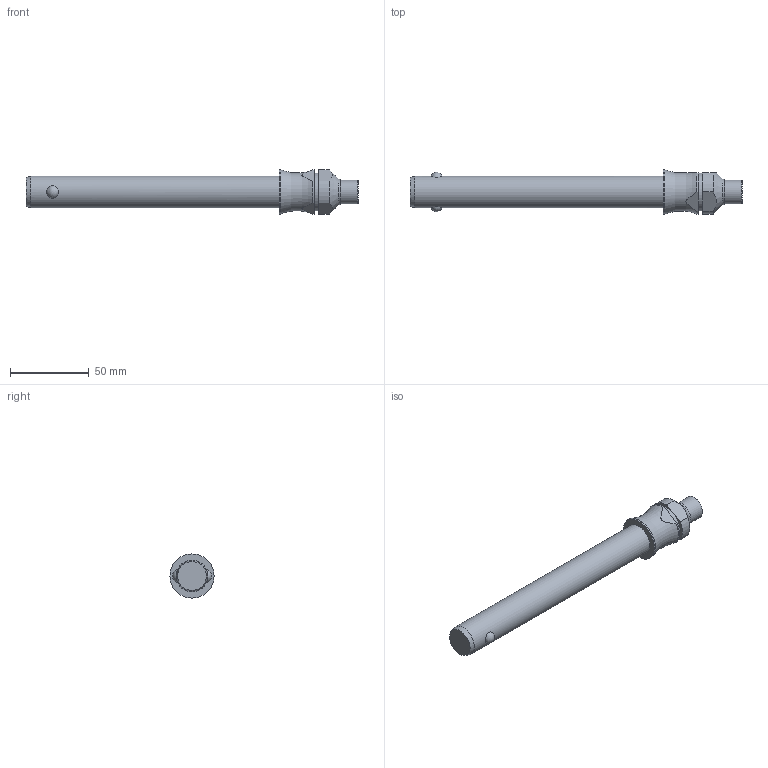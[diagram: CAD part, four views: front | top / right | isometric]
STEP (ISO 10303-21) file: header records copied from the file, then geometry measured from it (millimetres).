
FILE_DESCRIPTION( ( 'STEP AP203' ), '1' );
FILE_NAME( 'C:/Temp/Ganter_Step_05_03_2020/data/3_1/gn113_3/Stainless Steel-Ball lock pin GN 113.3-20-140 (deactivated).stp', '2020-03-12T08:19:07', ( 'License CC BY-ND 4.0' ), ( 'CADENAS' ), ' ', 'PARTsolutions', ' ' );
FILE_SCHEMA( ( 'CONFIG_CONTROL_DESIGN' ) );
Length unit declared in the file: millimetre
Products named in the file (1): _Stainless Steel-Ball lock pin GN 113.3-20-140 (deactivated)
Bounding box: 210.6 x 28 x 28 mm (x, y, z)
Volume: 71223.6 mm3; surface area: 14848.6 mm2
Topology: 1 solids, 1 shells, 29 faces, 62 edges, 40 vertices
Faces by surface type: plane 11, cylinder 11, cone 4, sphere 2, torus 1
Full cylindrical faces by diameter (mm): 15 x1, 16 x1, 20 x1, 24 x1, 28 x1
Entity records: 1010 total; most frequent: CARTESIAN_POINT 380, DIRECTION 126, ORIENTED_EDGE 100, AXIS2_PLACEMENT_3D 54, EDGE_CURVE 50, EDGE_LOOP 44, VERTEX_POINT 38, FACE_OUTER_BOUND 35
